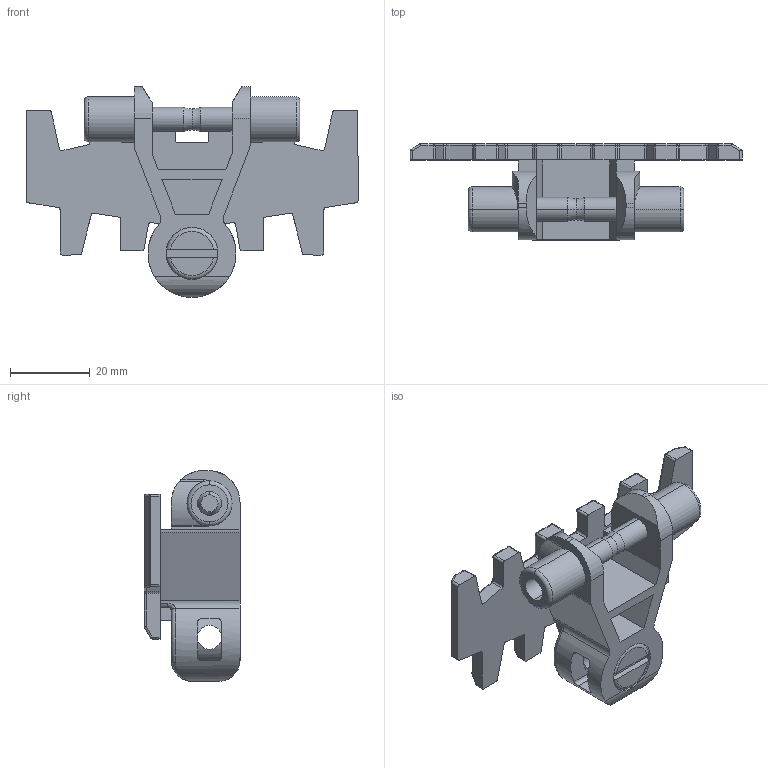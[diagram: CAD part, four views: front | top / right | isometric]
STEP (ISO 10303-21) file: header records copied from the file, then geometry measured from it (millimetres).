
FILE_DESCRIPTION (( 'STEP AP214' ), '1' );
FILE_NAME ('FMPC 5.step', '2017-04-04T13:34:54', ( '' ), ( '' ), 'SwSTEP 2.0', 'SolidWorks 2015', '' );
FILE_SCHEMA (( 'AUTOMOTIVE_DESIGN' ));
Length unit declared in the file: millimetre
Products named in the file (1): FMPC 5
Bounding box: 83 x 24 x 52.7 mm (x, y, z)
Volume: 21952.4 mm3; surface area: 14496.6 mm2
Topology: 3 solids, 3 shells, 354 faces, 882 edges, 504 vertices
Faces by surface type: cylinder 163, plane 101, torus 38, sphere 38, bspline 10, cone 4
Entity records: 14901 total; most frequent: CARTESIAN_POINT 2629, DIRECTION 1845, ORIENTED_EDGE 1704, EDGE_CURVE 852, AXIS2_PLACEMENT_3D 710, VERTEX_POINT 504, VECTOR 425, LINE 425
